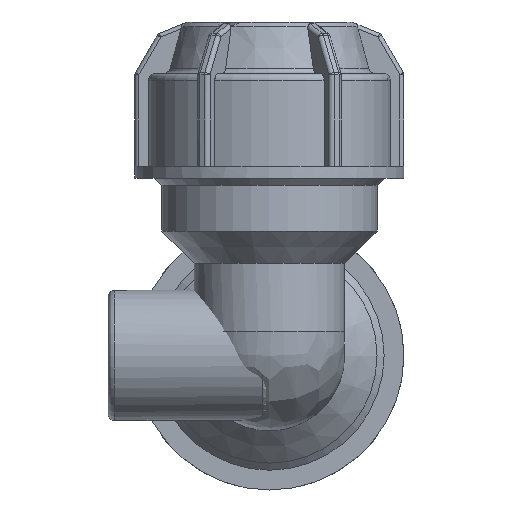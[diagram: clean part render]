
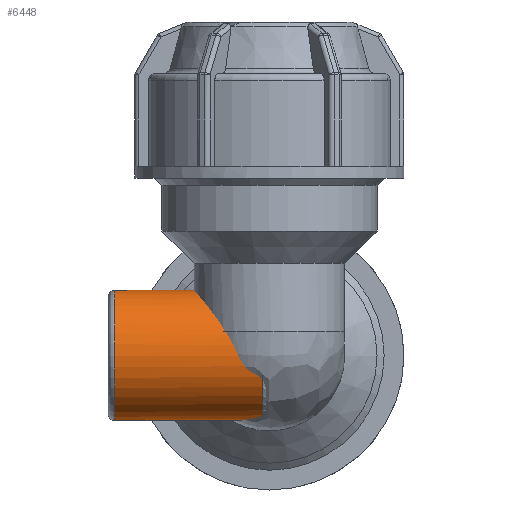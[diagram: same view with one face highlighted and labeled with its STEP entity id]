
A CAD part, left-side view. The second image highlights one B-rep face of the part: STEP entity #6448.
In plain terms, the highlighted cylindrical face has radius 12.11 mm (diameter 24.22 mm), a full revolution.
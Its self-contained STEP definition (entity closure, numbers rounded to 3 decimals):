
#1099=FACE_BOUND('',#1969,.T.);
#1517=FACE_OUTER_BOUND('',#1968,.T.);
#1968=EDGE_LOOP('',(#5889,#5890,#5891));
#1969=EDGE_LOOP('',(#5892));
#2326=CIRCLE('',#7217,12.11);
#2328=CIRCLE('',#7220,12.11);
#2522=B_SPLINE_CURVE_WITH_KNOTS('',3,(#12398,#12399,#12400,#12401,#12402,
#12403,#12404,#12405,#12406,#12407,#12408,#12409,#12410,#12411,#12412,#12413,
#12414,#12415,#12416,#12417),.UNSPECIFIED.,.F.,.F.,(4,2,2,2,2,2,2,2,2,4),
(2.936,2.988,3.165,3.52,3.868,
4.216,4.564,4.912,5.267,5.396),
 .UNSPECIFIED.);
#2525=B_SPLINE_CURVE_WITH_KNOTS('',3,(#12446,#12447,#12448,#12449,#12450,
#12451,#12452,#12453,#12454,#12455,#12456,#12457,#12458,#12459,#12460,#12461,
#12462,#12463,#12464,#12465),.UNSPECIFIED.,.F.,.F.,(4,2,2,2,2,2,2,2,2,4),
(0.225,0.355,0.709,1.057,
1.405,1.753,2.102,2.456,2.633,
2.686),.UNSPECIFIED.);
#3075=VERTEX_POINT('',#12395);
#3076=VERTEX_POINT('',#12397);
#3078=VERTEX_POINT('',#12433);
#3079=VERTEX_POINT('',#12481);
#4012=EDGE_CURVE('',#3076,#3075,#2522,.T.);
#4016=EDGE_CURVE('',#3075,#3078,#2525,.T.);
#4019=EDGE_CURVE('',#3079,#3079,#2326,.T.);
#4021=EDGE_CURVE('',#3076,#3078,#2328,.T.);
#5889=ORIENTED_EDGE('',*,*,#4016,.T.);
#5890=ORIENTED_EDGE('',*,*,#4021,.F.);
#5891=ORIENTED_EDGE('',*,*,#4012,.T.);
#5892=ORIENTED_EDGE('',*,*,#4019,.F.);
#6032=CYLINDRICAL_SURFACE('',#7219,12.11);
#6448=ADVANCED_FACE('',(#1517,#1099),#6032,.T.);
#7217=AXIS2_PLACEMENT_3D('',#12482,#9117,#9118);
#7219=AXIS2_PLACEMENT_3D('',#12485,#9121,#9122);
#7220=AXIS2_PLACEMENT_3D('',#12486,#9123,#9124);
#9117=DIRECTION('center_axis',(0.,1.,0.));
#9118=DIRECTION('ref_axis',(1.,0.,0.));
#9121=DIRECTION('center_axis',(0.,1.,0.));
#9122=DIRECTION('ref_axis',(-1.,0.,0.));
#9123=DIRECTION('center_axis',(0.,-1.,0.));
#9124=DIRECTION('ref_axis',(1.,0.,0.));
#12395=CARTESIAN_POINT('',(8.563,2.234,8.563));
#12397=CARTESIAN_POINT('',(-8.761,1.25,8.361));
#12398=CARTESIAN_POINT('Ctrl Pts',(-8.761,1.25,8.361));
#12399=CARTESIAN_POINT('Ctrl Pts',(-8.736,1.423,8.387));
#12400=CARTESIAN_POINT('Ctrl Pts',(-8.706,1.595,8.418));
#12401=CARTESIAN_POINT('Ctrl Pts',(-8.553,2.347,8.575));
#12402=CARTESIAN_POINT('Ctrl Pts',(-8.377,2.914,8.751));
#12403=CARTESIAN_POINT('Ctrl Pts',(-7.694,4.526,9.372));
#12404=CARTESIAN_POINT('Ctrl Pts',(-7.026,5.489,9.904));
#12405=CARTESIAN_POINT('Ctrl Pts',(-5.503,7.012,10.824));
#12406=CARTESIAN_POINT('Ctrl Pts',(-4.538,7.688,11.285));
#12407=CARTESIAN_POINT('Ctrl Pts',(-2.368,8.608,11.93));
#12408=CARTESIAN_POINT('Ctrl Pts',(-1.16,8.85,12.11));
#12409=CARTESIAN_POINT('Ctrl Pts',(1.16,8.85,12.11));
#12410=CARTESIAN_POINT('Ctrl Pts',(2.368,8.608,11.93));
#12411=CARTESIAN_POINT('Ctrl Pts',(4.538,7.688,11.285));
#12412=CARTESIAN_POINT('Ctrl Pts',(5.503,7.012,10.824));
#12413=CARTESIAN_POINT('Ctrl Pts',(7.026,5.489,9.904));
#12414=CARTESIAN_POINT('Ctrl Pts',(7.694,4.526,9.372));
#12415=CARTESIAN_POINT('Ctrl Pts',(8.315,3.059,8.807));
#12416=CARTESIAN_POINT('Ctrl Pts',(8.454,2.651,8.672));
#12417=CARTESIAN_POINT('Ctrl Pts',(8.563,2.234,8.563));
#12433=CARTESIAN_POINT('',(8.361,1.25,-8.761));
#12446=CARTESIAN_POINT('Ctrl Pts',(8.563,2.234,8.563));
#12447=CARTESIAN_POINT('Ctrl Pts',(8.672,2.651,8.454));
#12448=CARTESIAN_POINT('Ctrl Pts',(8.807,3.059,8.315));
#12449=CARTESIAN_POINT('Ctrl Pts',(9.372,4.526,7.694));
#12450=CARTESIAN_POINT('Ctrl Pts',(9.904,5.489,7.026));
#12451=CARTESIAN_POINT('Ctrl Pts',(10.824,7.012,5.503));
#12452=CARTESIAN_POINT('Ctrl Pts',(11.285,7.688,4.538));
#12453=CARTESIAN_POINT('Ctrl Pts',(11.93,8.608,2.368));
#12454=CARTESIAN_POINT('Ctrl Pts',(12.11,8.85,1.16));
#12455=CARTESIAN_POINT('Ctrl Pts',(12.11,8.85,-1.16));
#12456=CARTESIAN_POINT('Ctrl Pts',(11.93,8.608,-2.368));
#12457=CARTESIAN_POINT('Ctrl Pts',(11.285,7.688,-4.538));
#12458=CARTESIAN_POINT('Ctrl Pts',(10.824,7.012,-5.503));
#12459=CARTESIAN_POINT('Ctrl Pts',(9.904,5.489,-7.026));
#12460=CARTESIAN_POINT('Ctrl Pts',(9.372,4.526,-7.694));
#12461=CARTESIAN_POINT('Ctrl Pts',(8.751,2.914,-8.377));
#12462=CARTESIAN_POINT('Ctrl Pts',(8.575,2.347,-8.553));
#12463=CARTESIAN_POINT('Ctrl Pts',(8.418,1.595,-8.706));
#12464=CARTESIAN_POINT('Ctrl Pts',(8.387,1.423,-8.736));
#12465=CARTESIAN_POINT('Ctrl Pts',(8.361,1.25,-8.761));
#12481=CARTESIAN_POINT('',(-12.11,28.75,0.));
#12482=CARTESIAN_POINT('Origin',(0.,28.75,0.));
#12485=CARTESIAN_POINT('Origin',(0.,15.,0.));
#12486=CARTESIAN_POINT('Origin',(0.,1.25,0.));
